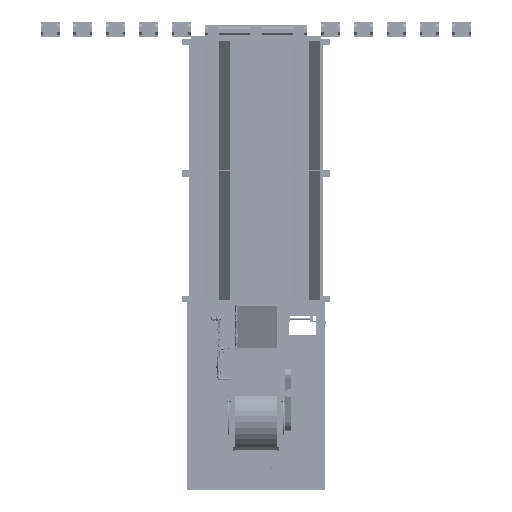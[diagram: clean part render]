
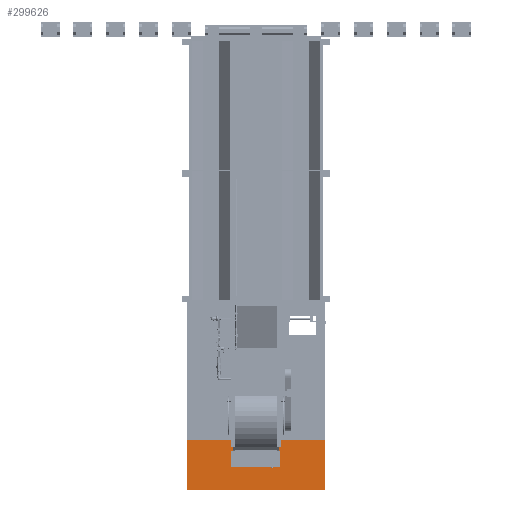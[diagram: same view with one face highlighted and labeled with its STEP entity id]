
A CAD part, front view. The second image highlights one B-rep face of the part: STEP entity #299626.
In plain terms, the highlighted planar face has unit normal (0, -1, 0) as drawn and (1, 0, 0) by its records, which use the part's own axes.
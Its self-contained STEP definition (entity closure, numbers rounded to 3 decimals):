
#59490=FACE_OUTER_BOUND('',#77496,.T.);
#77496=EDGE_LOOP('',(#270966,#270967,#270968,#270969));
#98982=LINE('',#728346,#121690);
#99018=LINE('',#728414,#121726);
#99030=LINE('',#728437,#121738);
#99031=LINE('',#728438,#121739);
#121690=VECTOR('',#397605,0.394);
#121726=VECTOR('',#397659,0.394);
#121738=VECTOR('',#397683,0.394);
#121739=VECTOR('',#397684,0.394);
#149010=VERTEX_POINT('',#728343);
#149011=VERTEX_POINT('',#728345);
#149034=VERTEX_POINT('',#728412);
#149039=VERTEX_POINT('',#728436);
#190062=EDGE_CURVE('',#149010,#149011,#98982,.T.);
#190098=EDGE_CURVE('',#149010,#149034,#99018,.T.);
#190110=EDGE_CURVE('',#149034,#149039,#99030,.T.);
#190111=EDGE_CURVE('',#149039,#149011,#99031,.T.);
#270966=ORIENTED_EDGE('',*,*,#190098,.T.);
#270967=ORIENTED_EDGE('',*,*,#190110,.T.);
#270968=ORIENTED_EDGE('',*,*,#190111,.T.);
#270969=ORIENTED_EDGE('',*,*,#190062,.F.);
#283642=PLANE('',#326718);
#299626=ADVANCED_FACE('',(#59490),#283642,.T.);
#326718=AXIS2_PLACEMENT_3D('',#728435,#397681,#397682);
#397605=DIRECTION('',(0.,0.,1.));
#397659=DIRECTION('',(0.,1.,0.));
#397681=DIRECTION('center_axis',(1.,0.,0.));
#397682=DIRECTION('ref_axis',(0.,0.,-1.));
#397683=DIRECTION('',(0.,0.,1.));
#397684=DIRECTION('',(0.,-1.,0.));
#728343=CARTESIAN_POINT('',(-0.125,-30.,101.063));
#728345=CARTESIAN_POINT('',(-0.125,-30.,137.75));
#728346=CARTESIAN_POINT('',(-0.125,-30.,0.));
#728412=CARTESIAN_POINT('',(-0.125,70.5,101.063));
#728414=CARTESIAN_POINT('',(-0.125,20.25,101.063));
#728435=CARTESIAN_POINT('Origin',(-0.125,70.5,0.));
#728436=CARTESIAN_POINT('',(-0.125,70.5,137.75));
#728437=CARTESIAN_POINT('',(-0.125,70.5,0.));
#728438=CARTESIAN_POINT('',(-0.125,-30.,137.75));
